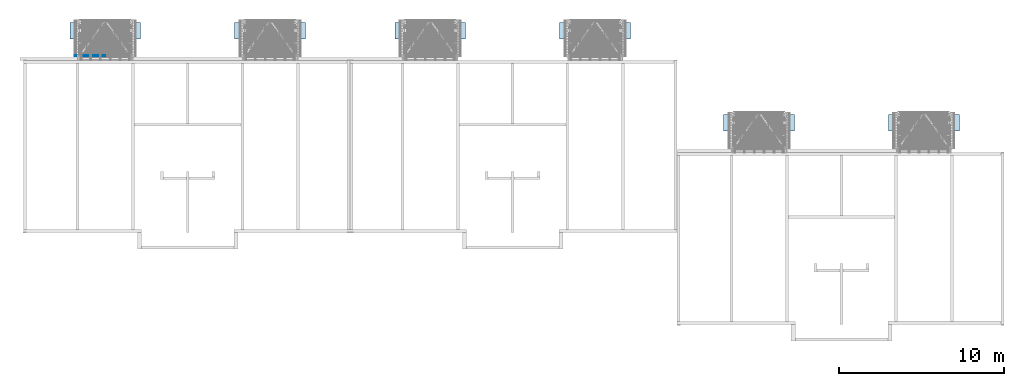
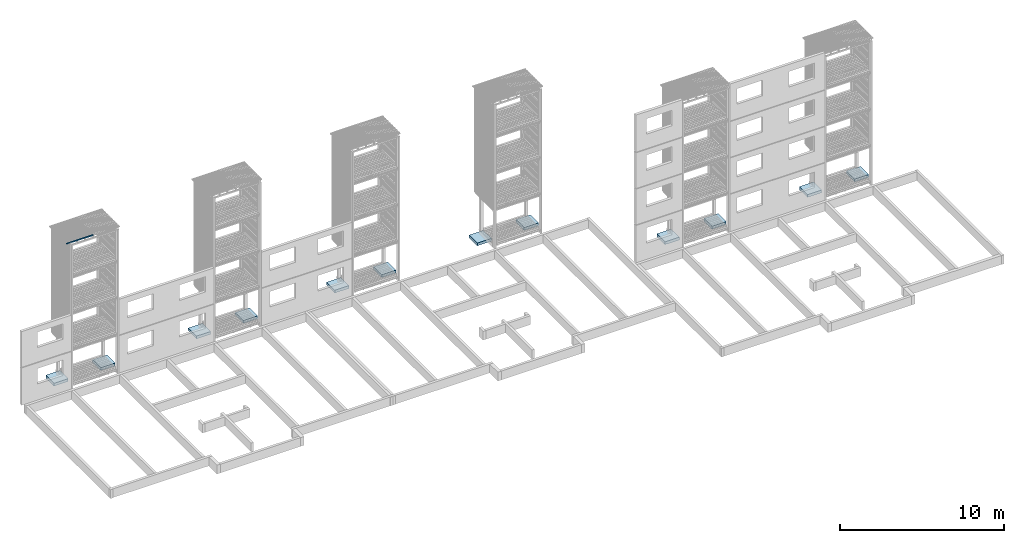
# One storey, part 7 of 182: 12 footings, 1 beam.
"""IFC2X3 building model written with IfcOpenShell, lengths in metres."""

from ifc_helpers import new_model, si_unit, frame, origin, place, context, project, spatial, faceted_brep, element, save


model = new_model("IFC2X3")

# Units and contexts
model_context = context("Model", 3, precision=1e-06, world=origin())
ifc_project = project(units=[si_unit("LENGTHUNIT", "METRE"), si_unit("PLANEANGLEUNIT", "RADIAN")], contexts=[model_context])

# Site, building, storey
site = spatial("IfcSite", under=ifc_project, CompositionType="ELEMENT")
building = spatial("IfcBuilding", under=site, CompositionType="ELEMENT")
storey = spatial("IfcBuildingStorey", under=building, Name="vs", CompositionType="ELEMENT", Elevation=-0.85)

# Footings
placement = place(None, origin())
footing_1_placement = place(placement, frame((52.539999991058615, 6.670077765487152, -0.51), z_axis=(0.0, 0.0, 1.0), x_axis=(1.0, 0.0, 0.0)))
element("IfcFooting", 1, at=footing_1_placement, inside=storey, Name="Plot BA", context=model_context, shape_type="Brep", body=[
    faceted_brep([(1.000000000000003, -0.500000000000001, 0.1), (1.000000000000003, 0.5, 0.1), (3e-15, 0.5, 0.1), (3e-15, -0.500000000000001, 0.1), (1.000000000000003, -0.500000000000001, -0.1), (3e-15, -0.500000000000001, -0.1), (3e-15, 0.5, -0.1), (1.000000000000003, 0.5, -0.1), (3e-15, -0.500000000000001, 0.1), (3e-15, 0.5, 0.1), (3e-15, 0.5, -0.1), (3e-15, -0.500000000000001, -0.1), (1.000000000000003, -0.500000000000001, 0.1), (3e-15, -0.500000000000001, 0.1), (3e-15, -0.500000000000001, -0.1), (1.000000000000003, -0.500000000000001, -0.1), (1.000000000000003, 0.5, 0.1), (1.000000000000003, -0.500000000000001, 0.1), (1.000000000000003, -0.500000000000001, -0.1), (1.000000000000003, 0.5, -0.1), (3e-15, 0.5, 0.1), (1.000000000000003, 0.5, 0.1), (1.000000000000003, 0.5, -0.1), (3e-15, 0.5, -0.1)], [[[0, 1, 2, 3]], [[4, 5, 6, 7]], [[8, 9, 10, 11]], [[12, 13, 14, 15]], [[16, 17, 18, 19]], [[20, 21, 22, 23]]]),
])
for number, where, z_axis, x_axis, name in (
    (2, (6.129197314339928, 12.270077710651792, -0.51), (0.0, 0.0, 1.0), (1.0, 0.0, 0.0), "Plot BA"),
    (3, (55.839999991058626, 6.670077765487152, -0.51), (0.0, 0.0, 1.0), (1.0, 0.0, 0.0), "Plot BA"),
    (4, (45.83040135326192, 6.670077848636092, -0.51), (0.0, 0.0, 1.0), (1.0, 0.0, 0.0), "Plot BA"),
):
    element("IfcFooting", number, at=place(placement, frame(where, z_axis=z_axis, x_axis=x_axis)), inside=storey, Name=name, context=model_context, shape_type="Brep", body=[
        faceted_brep([(0.999999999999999, -0.500000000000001, 0.1), (0.999999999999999, 0.5, 0.1), (-1e-15, 0.5, 0.1), (-1e-15, -0.500000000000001, 0.1), (0.999999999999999, -0.500000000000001, -0.1), (-1e-15, -0.500000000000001, -0.1), (-1e-15, 0.5, -0.1), (0.999999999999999, 0.5, -0.1), (-1e-15, -0.500000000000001, 0.1), (-1e-15, 0.5, 0.1), (-1e-15, 0.5, -0.1), (-1e-15, -0.500000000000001, -0.1), (0.999999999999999, -0.500000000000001, 0.1), (-1e-15, -0.500000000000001, 0.1), (-1e-15, -0.500000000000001, -0.1), (0.999999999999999, -0.500000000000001, -0.1), (0.999999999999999, 0.5, 0.1), (0.999999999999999, -0.500000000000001, 0.1), (0.999999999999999, -0.500000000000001, -0.1), (0.999999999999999, 0.5, -0.1), (-1e-15, 0.5, 0.1), (0.999999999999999, 0.5, 0.1), (0.999999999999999, 0.5, -0.1), (-1e-15, 0.5, -0.1)], [[[0, 1, 2, 3]], [[4, 5, 6, 7]], [[8, 9, 10, 11]], [[12, 13, 14, 15]], [[16, 17, 18, 19]], [[20, 21, 22, 23]]]),
    ])
footing_2_placement = place(placement, frame((22.559999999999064, 12.270077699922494, -0.51), z_axis=(0.0, 0.0, 1.0), x_axis=(1.0, 0.0, 0.0)))
element("IfcFooting", 5, at=footing_2_placement, inside=storey, Name="Plot BA", context=model_context, shape_type="Brep", body=[
    faceted_brep([(1.000000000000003, -0.500000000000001, 0.1), (1.000000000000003, 0.5, 0.1), (3e-15, 0.5, 0.1), (3e-15, -0.500000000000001, 0.1), (1.000000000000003, -0.500000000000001, -0.1), (3e-15, -0.500000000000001, -0.1), (3e-15, 0.5, -0.1), (1.000000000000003, 0.5, -0.1), (3e-15, -0.500000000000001, 0.1), (3e-15, 0.5, 0.1), (3e-15, 0.5, -0.1), (3e-15, -0.500000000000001, -0.1), (1.000000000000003, -0.500000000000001, 0.1), (3e-15, -0.500000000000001, 0.1), (3e-15, -0.500000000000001, -0.1), (1.000000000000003, -0.500000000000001, -0.1), (1.000000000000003, 0.5, 0.1), (1.000000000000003, -0.500000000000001, 0.1), (1.000000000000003, -0.500000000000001, -0.1), (1.000000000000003, 0.5, -0.1), (3e-15, 0.5, 0.1), (1.000000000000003, 0.5, 0.1), (1.000000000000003, 0.5, -0.1), (3e-15, 0.5, -0.1)], [[[0, 1, 2, 3]], [[4, 5, 6, 7]], [[8, 9, 10, 11]], [[12, 13, 14, 15]], [[16, 17, 18, 19]], [[20, 21, 22, 23]]]),
])
for number, where, z_axis, x_axis, name in (
    (6, (16.139197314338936, 12.270077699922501, -0.51), (0.0, 0.0, 1.0), (1.0, 0.0, 0.0), "Plot BA"),
    (7, (25.859999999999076, 12.270077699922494, -0.51), (0.0, 0.0, 1.0), (1.0, 0.0, 0.0), "Plot BA"),
    (8, (35.869999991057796, 12.270077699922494, -0.51), (0.0, 0.0, 1.0), (1.0, 0.0, 0.0), "Plot BA"),
):
    element("IfcFooting", number, at=place(placement, frame(where, z_axis=z_axis, x_axis=x_axis)), inside=storey, Name=name, context=model_context, shape_type="Brep", body=[
        faceted_brep([(0.999999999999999, -0.500000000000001, 0.1), (0.999999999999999, 0.5, 0.1), (-1e-15, 0.5, 0.1), (-1e-15, -0.500000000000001, 0.1), (0.999999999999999, -0.500000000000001, -0.1), (-1e-15, -0.500000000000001, -0.1), (-1e-15, 0.5, -0.1), (0.999999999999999, 0.5, -0.1), (-1e-15, -0.500000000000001, 0.1), (-1e-15, 0.5, 0.1), (-1e-15, 0.5, -0.1), (-1e-15, -0.500000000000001, -0.1), (0.999999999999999, -0.500000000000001, 0.1), (-1e-15, -0.500000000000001, 0.1), (-1e-15, -0.500000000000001, -0.1), (0.999999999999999, -0.500000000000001, -0.1), (0.999999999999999, 0.5, 0.1), (0.999999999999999, -0.500000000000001, 0.1), (0.999999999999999, -0.500000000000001, -0.1), (0.999999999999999, 0.5, -0.1), (-1e-15, 0.5, 0.1), (0.999999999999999, 0.5, 0.1), (0.999999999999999, 0.5, -0.1), (-1e-15, 0.5, -0.1)], [[[0, 1, 2, 3]], [[4, 5, 6, 7]], [[8, 9, 10, 11]], [[12, 13, 14, 15]], [[16, 17, 18, 19]], [[20, 21, 22, 23]]]),
    ])
for number, where, z_axis, x_axis, name in (
    (9, (32.569999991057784, 12.270077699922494, -0.51), (0.0, 0.0, 1.0), (1.0, 0.0, 0.0), "Plot BA"),
    (10, (2.829197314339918, 12.270077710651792, -0.51), (0.0, 0.0, 1.0), (1.0, 0.0, 0.0), "Plot BA"),
    (11, (12.839197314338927, 12.270077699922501, -0.51), (0.0, 0.0, 1.0), (1.0, 0.0, 0.0), "Plot BA"),
    (12, (42.53040135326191, 6.670077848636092, -0.51), (0.0, 0.0, 1.0), (1.0, 0.0, 0.0), "Plot BA"),
):
    element("IfcFooting", number, at=place(placement, frame(where, z_axis=z_axis, x_axis=x_axis)), inside=storey, Name=name, context=model_context, shape_type="Brep", body=[
        faceted_brep([(1.000000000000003, -0.500000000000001, 0.1), (1.000000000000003, 0.5, 0.1), (3e-15, 0.5, 0.1), (3e-15, -0.500000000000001, 0.1), (1.000000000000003, -0.500000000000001, -0.1), (3e-15, -0.500000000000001, -0.1), (3e-15, 0.5, -0.1), (1.000000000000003, 0.5, -0.1), (3e-15, -0.500000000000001, 0.1), (3e-15, 0.5, 0.1), (3e-15, 0.5, -0.1), (3e-15, -0.500000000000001, -0.1), (1.000000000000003, -0.500000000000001, 0.1), (3e-15, -0.500000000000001, 0.1), (3e-15, -0.500000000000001, -0.1), (1.000000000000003, -0.500000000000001, -0.1), (1.000000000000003, 0.5, 0.1), (1.000000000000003, -0.500000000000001, 0.1), (1.000000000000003, -0.500000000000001, -0.1), (1.000000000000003, 0.5, -0.1), (3e-15, 0.5, 0.1), (1.000000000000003, 0.5, 0.1), (1.000000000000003, 0.5, -0.1), (3e-15, 0.5, -0.1)], [[[0, 1, 2, 3]], [[4, 5, 6, 7]], [[8, 9, 10, 11]], [[12, 13, 14, 15]], [[16, 17, 18, 19]], [[20, 21, 22, 23]]]),
    ])

# Beam
beam_placement = place(placement, frame((4.979197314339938, 10.745077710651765, 10.47999999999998), z_axis=(0.0, 0.0, 1.0), x_axis=(-1.0, 0.0, 0.0)))
element("IfcBeam", 13, at=beam_placement, inside=storey, Name="Bardage", context=model_context, shape_type="Brep", body=[
    faceted_brep([(1.850000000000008, -0.025000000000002, -0.024999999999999), (1.850000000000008, -0.025000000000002, 0.025000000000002), (-1e-15, -0.025000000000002, 0.025000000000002), (-1e-15, -0.025000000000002, -0.024999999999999), (1.850000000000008, -0.025000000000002, 0.025000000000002), (1.850000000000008, -0.025000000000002, -0.024999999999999), (1.850000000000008, 0.024999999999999, -0.024999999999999), (1.850000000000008, 0.024999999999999, 0.025000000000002), (1.850000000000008, 0.024999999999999, -0.024999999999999), (1.850000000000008, -0.025000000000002, -0.024999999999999), (-1e-15, -0.025000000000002, -0.024999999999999), (-1e-15, 0.024999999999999, -0.024999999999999), (1.850000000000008, 0.024999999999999, 0.025000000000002), (1.850000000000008, 0.024999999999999, -0.024999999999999), (-1e-15, 0.024999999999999, -0.024999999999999), (-1e-15, 0.024999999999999, 0.025000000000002), (-1e-15, -0.025000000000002, 0.025000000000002), (1.850000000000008, -0.025000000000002, 0.025000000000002), (1.850000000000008, 0.024999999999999, 0.025000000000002), (-1e-15, 0.024999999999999, 0.025000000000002), (-1e-15, -0.025000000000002, -0.024999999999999), (-1e-15, -0.025000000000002, 0.025000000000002), (-1e-15, 0.024999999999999, 0.025000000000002), (-1e-15, 0.024999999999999, -0.024999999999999)], [[[0, 1, 2, 3]], [[4, 5, 6, 7]], [[8, 9, 10, 11]], [[12, 13, 14, 15]], [[16, 17, 18, 19]], [[20, 21, 22, 23]]]),
])

save(model, "model.ifc")
